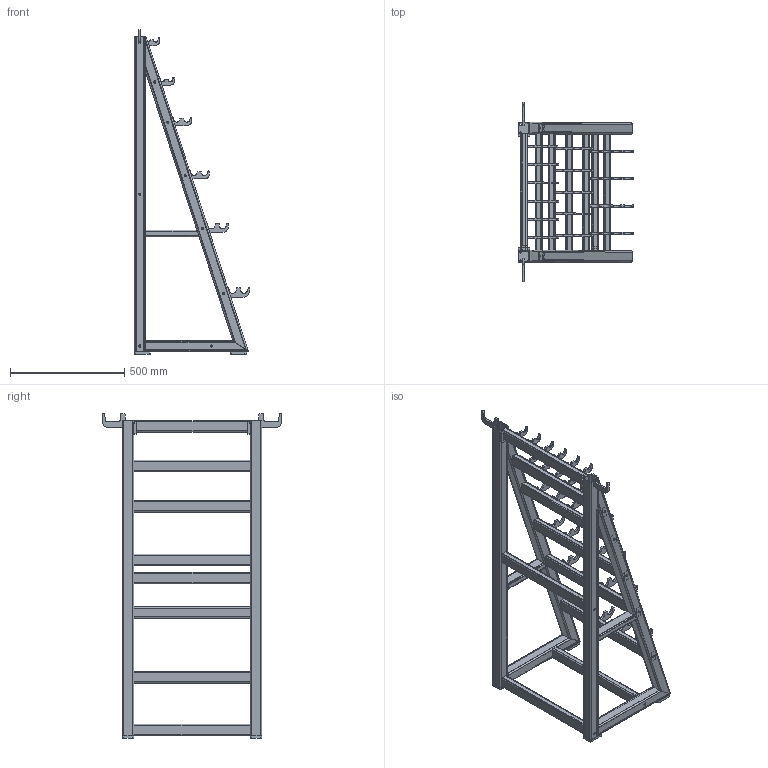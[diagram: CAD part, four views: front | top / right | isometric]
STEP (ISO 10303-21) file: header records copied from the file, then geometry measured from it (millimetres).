
FILE_DESCRIPTION(/* description */ (''),/* implementation_level */ '2;1');
FILE_NAME(/* name */ '小架子总装图.stp',/* time_stamp */ '2024-09-27T16:08:19+08:00',/* author */ (''),/* organization */ (''),/* preprocessor_version */ 'ST-DEVELOPER v16',/* originating_system */ 'SIEMENS PLM Software NX 10.0',/* authorisation */ '');
FILE_SCHEMA (('CONFIG_CONTROL_DESIGN'));
Length unit declared in the file: millimetre
Products named in the file (18): 1380-1; 6; 1380; 5; 88; 7.1; 7.2; 8; 450; 450-1; 234.3; 1451.5-1; 1451.5; 606.2; 560; 1380-B; 1380-A; PD-jia zi
Assembly tree (57 placements, depth 3):
  PD-jia zi
    560  x4
    606.2  x5
    1380-A
      1380
      6
    1380-B
      1380-1
      6
    1451.5
    1451.5-1
    234.3  x2
    450-1
    450
    8  x8
    7.2  x12
    7.1  x10
    88  x4
    5  x2
Bounding box: 506.2 x 784.04 x 1421.06 mm (x, y, z)
Volume: 6442384.4 mm3; surface area: 4047710.7 mm2
Topology: 55 solids, 55 shells, 1409 faces, 3973 edges, 2656 vertices
Faces by surface type: plane 786, cylinder 575, extrusion 48
Full cylindrical faces by diameter (mm): 6.5 x25, 9.5 x22
Entity records: 24192 total; most frequent: CARTESIAN_POINT 5002, ORIENTED_EDGE 3466, DIRECTION 3217, EDGE_CURVE 1733, VERTEX_POINT 1174, AXIS2_PLACEMENT_3D 1081, VECTOR 1055, LINE 1007
